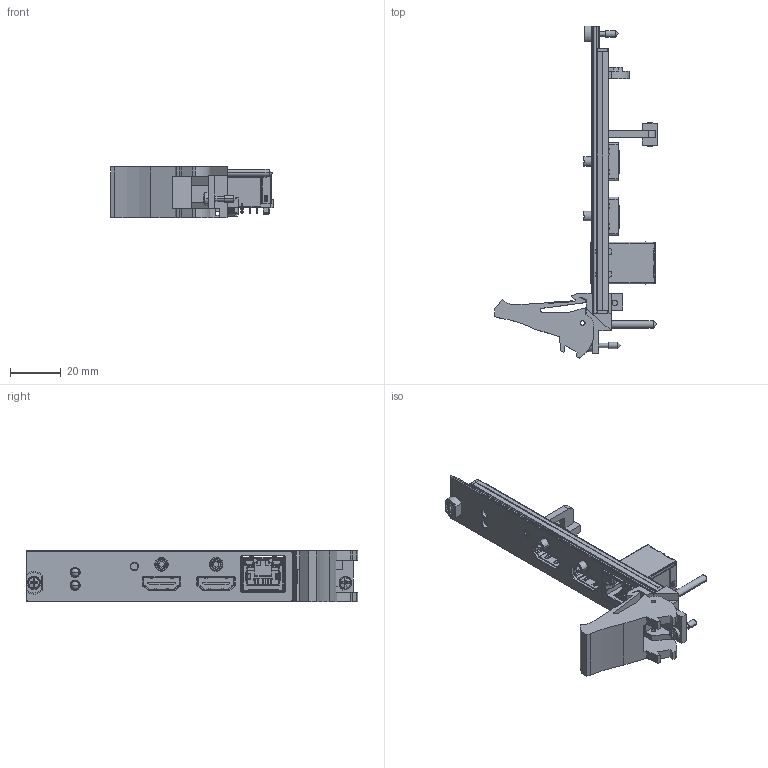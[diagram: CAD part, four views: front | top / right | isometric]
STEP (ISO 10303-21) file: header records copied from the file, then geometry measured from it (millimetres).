
FILE_DESCRIPTION((''),'2;1');
FILE_NAME('CU_MOD_PXIE-1491','2014-06-12T',('hugyokog'),(''),'PRO/ENGINEER BY PARAMETRIC TECHNOLOGY CORPORATION, 2014000','PRO/ENGINEER BY PARAMETRIC TECHNOLOGY CORPORATION, 2014000','');
FILE_SCHEMA(('CONFIG_CONTROL_DESIGN'));
Length unit declared in the file: inch
Products named in the file (1): CU_MOD_PXIE-1491
Bounding box: 63.89 x 130.5 x 20.31 mm (x, y, z)
Volume: 18938.8 mm3; surface area: 24429.7 mm2
Topology: 3 solids, 3 shells, 2331 faces, 6894 edges, 4544 vertices
Faces by surface type: plane 1463, cylinder 737, bspline 71, cone 36, torus 12, sphere 10, extrusion 2
Entity records: 89457 total; most frequent: CARTESIAN_POINT 27872, ORIENTED_EDGE 13760, DIRECTION 11648, EDGE_CURVE 6880, VECTOR 4706, LINE 4704, VERTEX_POINT 4544, AXIS2_PLACEMENT_3D 3471
